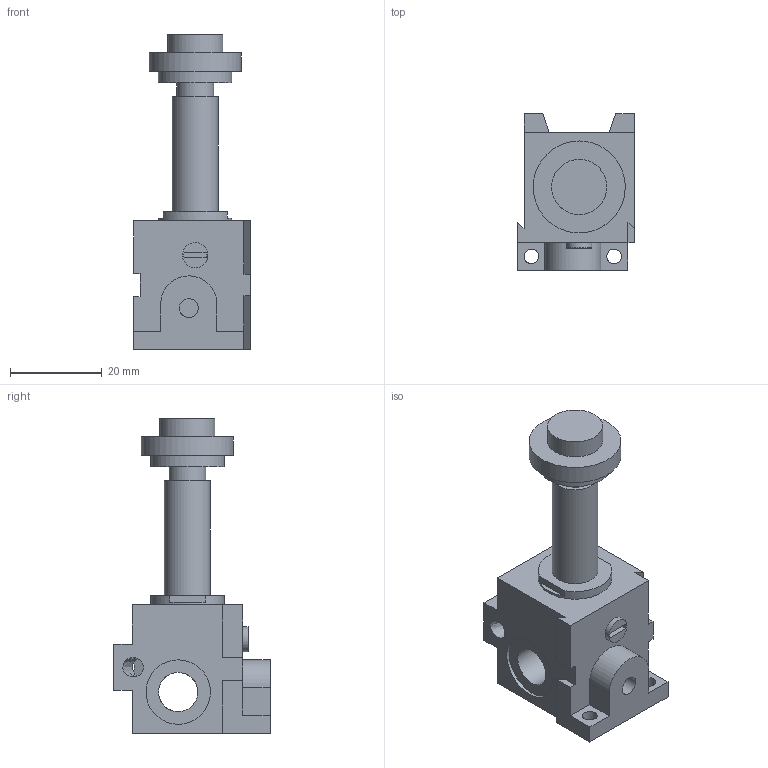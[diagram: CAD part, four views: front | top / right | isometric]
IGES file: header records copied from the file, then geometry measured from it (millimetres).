
Global section: file name: 355_M1; native system: Autodesk Inventor 2014; preprocessor: unknown; organization: Pneumax S.p.A.; date: 20161004.153125; units: millimetre
Bounding box: 25.4 x 34 x 68.5 mm (x, y, z)
Volume: 19098.9 mm3; surface area: 7777 mm2
Topology: 1 solids, 1 shells, 75 faces, 206 edges, 144 vertices
Faces by surface type: bspline 75
